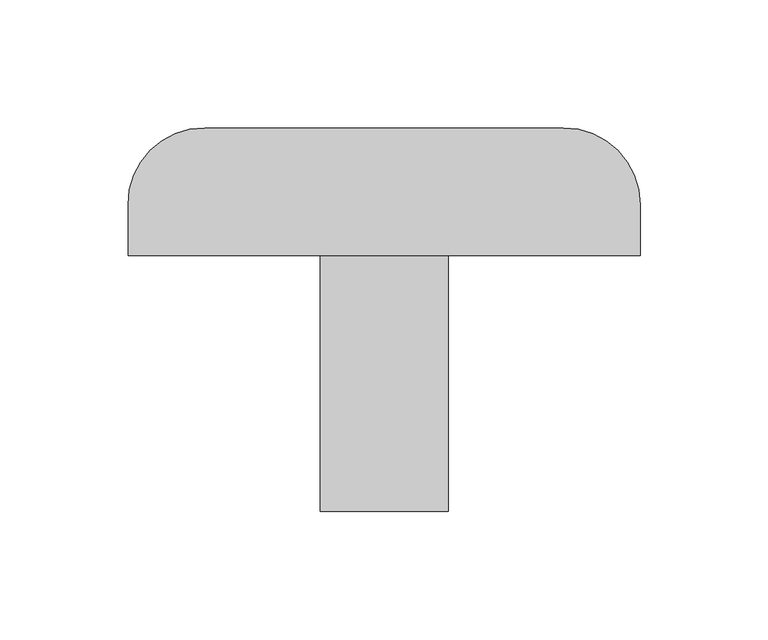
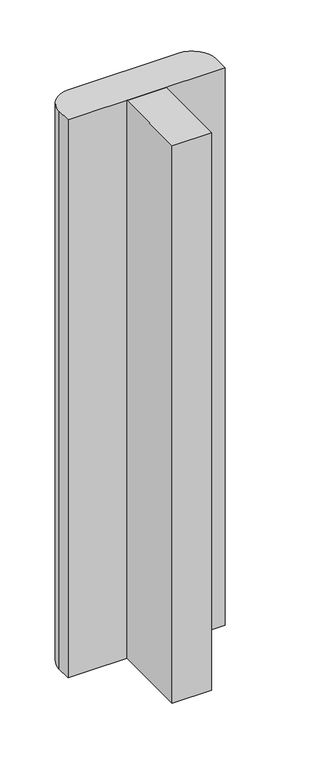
"""IFC4 building model written with IfcOpenShell, lengths in millimetres: flow terminal geometry, BIMHealth-Bed_Vertical_Bumpter-Non_Wall_Hosted-LOD2A-v1 : BIMHealth-Bed_Vertical_Bumpter-Non_Wall_Hosted-LOD2A-v1."""

from ifc_helpers import new_model, si_unit, point, frame_2d, origin, origin_with_axes, place, context, project, spatial, polyline, circle_curve, trimmed, segment, composite_curve, outline, extrude, source, transform, mapped, element, save


def flow_terminal_4f1cfbb8(model_context):
    return source(origin(), model_context, "Body", "SweptSolid", [
        extrude(outline(composite_curve([segment(polyline([(-100.0, 100.0), (-100.0, 120.0)]), True, "CONTINUOUS"), segment(trimmed(circle_curve(frame_2d((-70.0, 120.0)), 30.0), [point((-100.0, 120.0))], [point((-70.0, 150.0))], False, "CARTESIAN"), True, "CONTINUOUS"), segment(polyline([(-70.0, 150.0), (70.0, 150.0)]), True, "CONTINUOUS"), segment(trimmed(circle_curve(frame_2d((70.0, 120.0)), 30.0), [point((70.0, 150.0))], [point((100.0, 120.0))], False, "CARTESIAN"), True, "CONTINUOUS"), segment(polyline([(100.0, 120.0), (100.0, 100.0), (0.0, 100.0), (-100.0, 100.0)]), True, "CONTINUOUS")], self_intersect=False)), origin_with_axes(), (0.0, 0.0, 1.0), 750.0),
        extrude(outline(polyline([(-25.0, 0.0), (-25.0, 100.0), (25.0, 100.0), (25.0, 0.0), (-25.0, 0.0)])), origin_with_axes(), (0.0, 0.0, 1.0), 750.0),
    ])


if __name__ == "__main__":
    model = new_model("IFC4")
    model_context = context("Model", 3, world=origin())
    ifc_project = project(units=[si_unit("LENGTHUNIT", "METRE", prefix="MILLI")], contexts=[model_context])
    site = spatial("IfcSite", under=ifc_project)
    building = spatial("IfcBuilding", under=site)
    placement = place(None, origin())
    flow_terminal_shape = flow_terminal_4f1cfbb8(model_context)
    element("IfcFlowTerminal", 1, ObjectType="BIMHealth-Bed_Vertical_Bumpter-Non_Wall_Hosted-LOD2A-v1 : BIMHealth-Bed_Vertical_Bumpter-Non_Wall_Hosted-LOD2A-v1", at=placement, inside=building, context=model_context, shape_type="MappedRepresentation", body=[
        mapped(flow_terminal_shape, transform((0.0, 0.0, 0.0), x_axis=(1.0, 0.0, 0.0), y_axis=(0.0, 1.0, 0.0), z_axis=(0.0, 0.0, 1.0))),
    ])
    save(model, "model.ifc")
